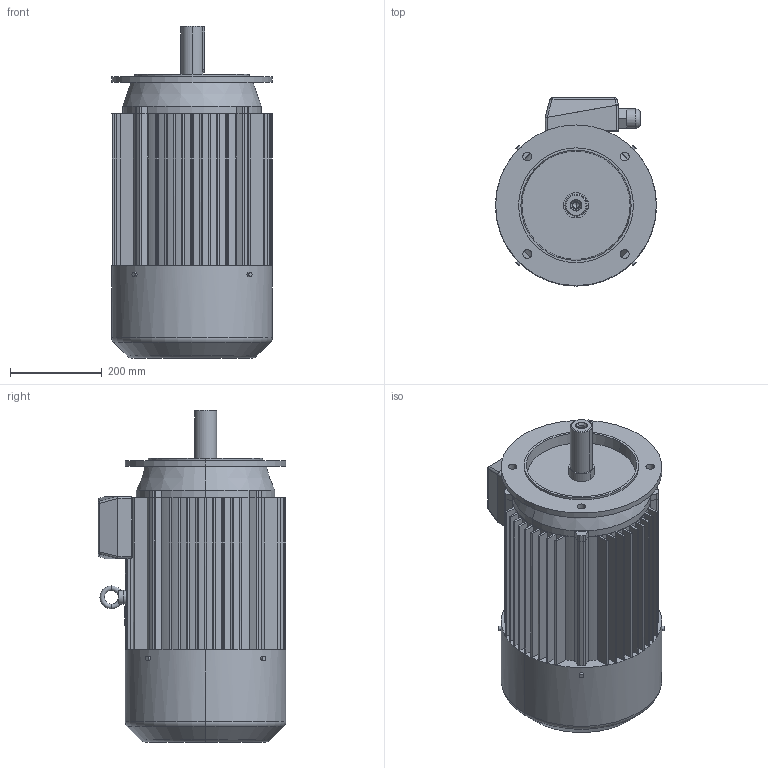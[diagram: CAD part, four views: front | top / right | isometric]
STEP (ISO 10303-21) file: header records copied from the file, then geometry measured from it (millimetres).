
FILE_DESCRIPTION (( 'STEP AP203' ), '1' );
FILE_NAME ('3SIEK180M;L.STEP', '2016-09-13T08:44:39', ( 'Indukta' ), ( 'Celma Indukta S.A.' ), 'SwSTEP 2.0', 'SolidWorks 2003064', '' );
FILE_SCHEMA (( 'CONFIG_CONTROL_DESIGN' ));
Length unit declared in the file: millimetre
Products named in the file (1): 3SIEK180M;L
Bounding box: 350 x 409 x 723 mm (x, y, z)
Volume: 51252051.5 mm3; surface area: 1836547.9 mm2
Topology: 14 solids, 14 shells, 419 faces, 1068 edges, 675 vertices
Faces by surface type: plane 207, cylinder 176, torus 16, cone 16, sphere 4
Entity records: 13025 total; most frequent: CARTESIAN_POINT 2532, DIRECTION 2323, ORIENTED_EDGE 2124, EDGE_CURVE 1062, AXIS2_PLACEMENT_3D 872, VERTEX_POINT 675, LINE 579, VECTOR 579
